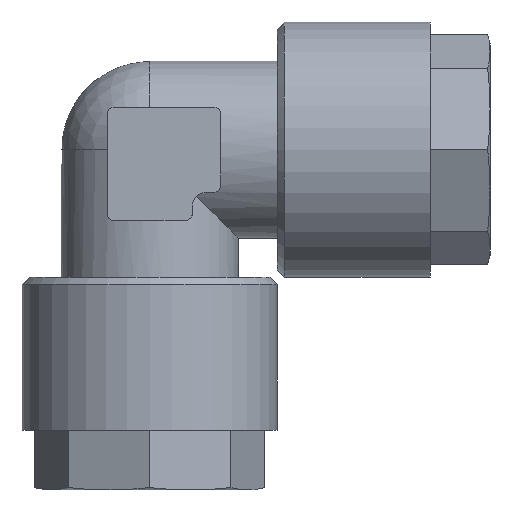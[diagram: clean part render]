
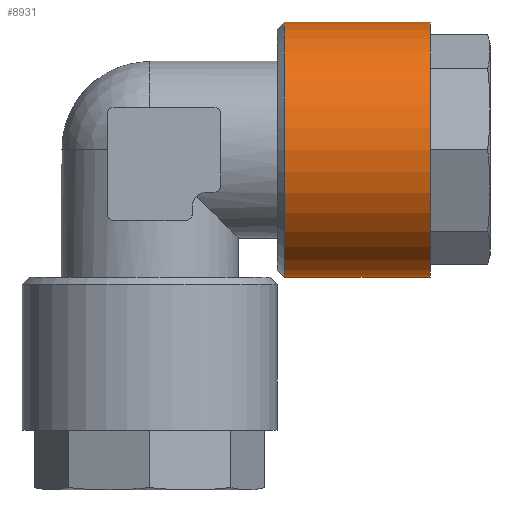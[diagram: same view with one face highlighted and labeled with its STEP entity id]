
A CAD part, front view. The second image highlights one B-rep face of the part: STEP entity #8931.
In plain terms, the highlighted cylindrical face has radius 9 mm (diameter 18 mm), a full revolution.
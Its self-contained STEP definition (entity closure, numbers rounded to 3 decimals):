
#2708=ORIENTED_EDGE('',*,*,#3194,.F.);
#2709=ORIENTED_EDGE('',*,*,#3195,.T.);
#2873=CIRCLE('',#8759,9.);
#2874=CIRCLE('',#8761,9.);
#3003=VERTEX_POINT('',#8482);
#3004=VERTEX_POINT('',#8485);
#3194=EDGE_CURVE('',#3003,#3003,#2873,.T.);
#3195=EDGE_CURVE('',#3004,#3004,#2874,.T.);
#3346=EDGE_LOOP('',(#2708));
#3347=EDGE_LOOP('',(#2709));
#3491=FACE_BOUND('',#3346,.T.);
#3492=FACE_BOUND('',#3347,.T.);
#3891=DIRECTION('',(0.,1.,0.));
#3892=DIRECTION('',(0.,0.,-9.));
#3893=DIRECTION('',(0.,1.,0.));
#3894=DIRECTION('',(1.,0.,0.));
#3895=DIRECTION('',(0.,1.,0.));
#3896=DIRECTION('',(0.,0.,9.));
#8482=CARTESIAN_POINT('',(26.989,25.395,-9.));
#8483=CARTESIAN_POINT('',(26.989,25.395,0.));
#8484=CARTESIAN_POINT('',(26.989,15.095,0.));
#8485=CARTESIAN_POINT('',(26.989,15.095,9.));
#8486=CARTESIAN_POINT('',(26.989,15.095,0.));
#8759=AXIS2_PLACEMENT_3D('',#8483,#3891,#3892);
#8760=AXIS2_PLACEMENT_3D('',#8484,#3893,#3894);
#8761=AXIS2_PLACEMENT_3D('',#8486,#3895,#3896);
#8855=CYLINDRICAL_SURFACE('',#8760,9.);
#8931=ADVANCED_FACE('',(#3491,#3492),#8855,.T.);
